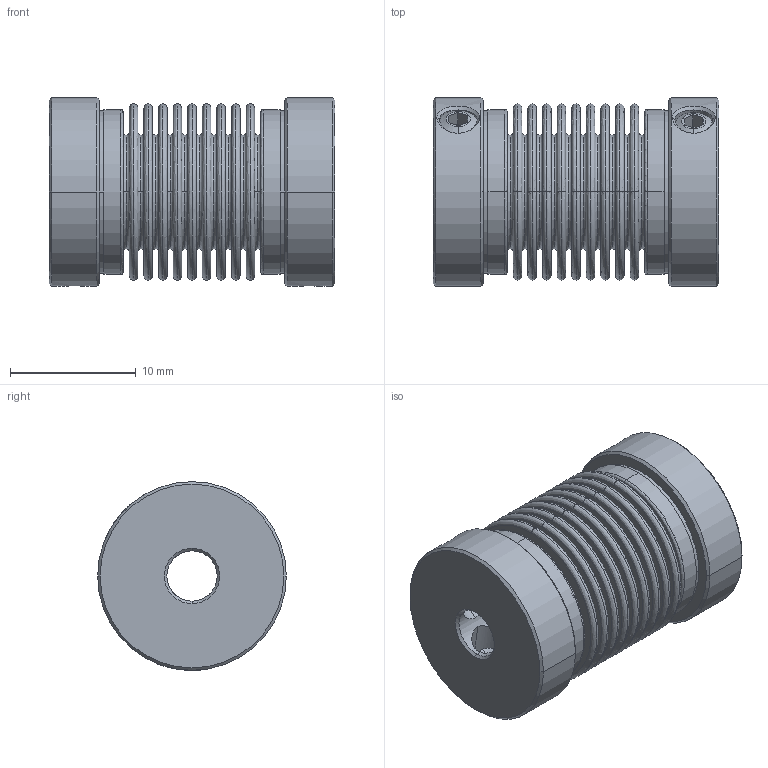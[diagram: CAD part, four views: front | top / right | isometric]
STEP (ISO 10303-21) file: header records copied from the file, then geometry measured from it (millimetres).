
FILE_DESCRIPTION (( 'STEP AP214' ), '1' );
FILE_NAME ('275047_8.0000.1202.0604~0.STEP', '2018-03-01T06:03:56', ( '' ), ( '' ), 'SwSTEP 2.0', 'SolidWorks 2017', '' );
FILE_SCHEMA (( 'AUTOMOTIVE_DESIGN' ));
Length unit declared in the file: inch
Products named in the file (1): 275047_8.0000.1202.0604~0
Bounding box: 22.72 x 15 x 15 mm (x, y, z)
Volume: 1786.8 mm3; surface area: 5227.6 mm2
Topology: 1 solids, 3 shells, 356 faces, 752 edges, 438 vertices
Faces by surface type: plane 100, bspline 88, torus 80, cone 52, cylinder 36
Entity records: 18280 total; most frequent: CARTESIAN_POINT 9573, DIRECTION 1600, ORIENTED_EDGE 1472, EDGE_CURVE 736, AXIS2_PLACEMENT_3D 719, CIRCLE 450, VERTEX_POINT 438, EDGE_LOOP 414
